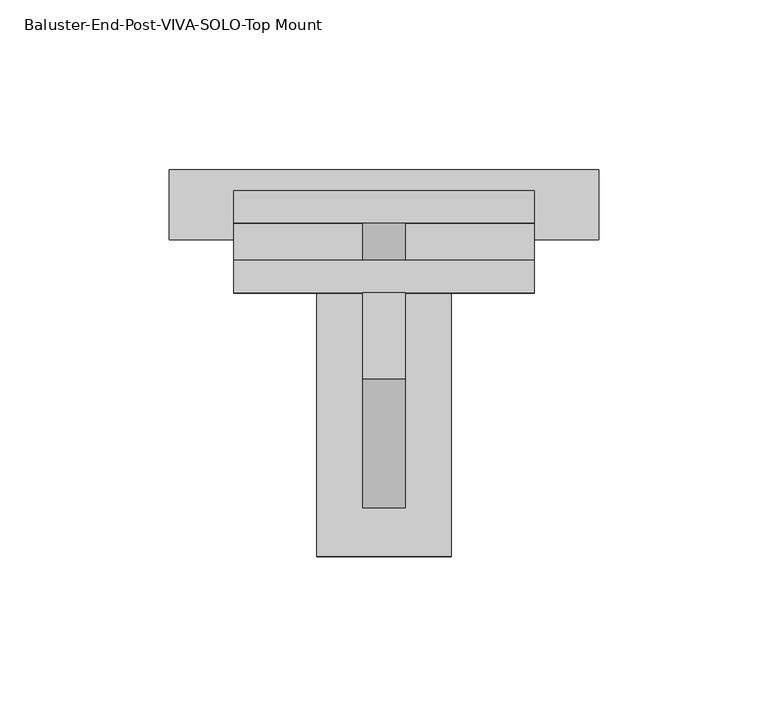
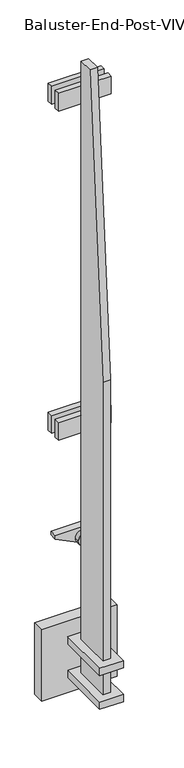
"""IFC4 building model written with IfcOpenShell, lengths in millimetres: proxy geometry, Baluster-End-Post-VIVA-SOLO-Top Mount : ANCHORED TO CONCRETE_FASCIA B1 MOUNT FOLD_STRAIGHT."""

from ifc_helpers import new_model, si_unit, point, frame, frame_2d, origin, place, context, project, spatial, polyline, circle_curve, trimmed, segment, composite_curve, outline, extrude, source, transform, mapped, element, save


def baluster_end_post_viva_solo_top_mount_5a94812b(model_context):
    return source(origin(), model_context, "Body", "SweptSolid", [
        extrude(outline(composite_curve([segment(trimmed(circle_curve(frame_2d((268.5208758, -152.4)), 6.35), [point((268.5208758, -146.05))], [point((268.5208758, -158.75))], False, "CARTESIAN"), True, "CONTINUOUS"), segment(trimmed(circle_curve(frame_2d((268.5208758, -152.4)), 6.35), [point((268.5208758, -158.75))], [point((268.5208758, -146.05))], False, "CARTESIAN"), True, "CONTINUOUS")], self_intersect=False)), frame((0.0, -63.209781, 0.0), z_axis=(0.0, 1.0, 0.0), x_axis=(0.0, 0.0, 1.0)), (0.0, 0.0, 1.0), 12.7),
        extrude(outline(composite_curve([segment(trimmed(circle_curve(frame_2d((854.7429765, -152.4)), 6.35), [point((854.7429765, -146.05))], [point((854.7429765, -158.75))], False, "CARTESIAN"), True, "CONTINUOUS"), segment(trimmed(circle_curve(frame_2d((854.7429765, -152.4)), 6.35), [point((854.7429765, -158.75))], [point((854.7429765, -146.05))], False, "CARTESIAN"), True, "CONTINUOUS")], self_intersect=False)), frame((0.0, -63.209781, 0.0), z_axis=(0.0, 1.0, 0.0), x_axis=(0.0, 0.0, 1.0)), (0.0, 0.0, 1.0), 12.7),
        extrude(outline(polyline([(-72.734781, 914.9493536), (-72.734781, -183.6006464), (-136.234781, -183.6006464), (-136.234781, 381.5493536), (-98.134781, 914.9493536), (-72.734781, 914.9493536)])), frame((-158.75, 0.0, 0.0), z_axis=(1.0, 0.0, 0.0), x_axis=(0.0, 1.0, 0.0)), (0.0, 0.0, 1.0), 12.7),
        extrude(outline(polyline([(-196.85, -42.5925389), (-107.95, -42.5925389), (-107.95, -52.1175389), (-196.85, -52.1175389), (-196.85, -42.5925389)])), frame((0.0, 0.0, 838.7824344), z_axis=(0.0, 0.0, 1.0), x_axis=(1.0, 0.0, 0.0)), (0.0, 0.0, 1.0), 31.75),
        extrude(outline(polyline([(-196.85, -42.5925389), (-107.95, -42.5925389), (-107.95, -52.1175389), (-196.85, -52.1175389), (-196.85, -42.5925389)])), frame((0.0, 0.0, 252.4484609), z_axis=(0.0, 0.0, 1.0), x_axis=(1.0, 0.0, 0.0)), (0.0, 0.0, 1.0), 31.75),
        extrude(outline(polyline([(-196.85, -63.209781), (-107.95, -63.209781), (-107.95, -72.734781), (-196.85, -72.734781), (-196.85, -63.209781)])), frame((0.0, 0.0, 838.7824344), z_axis=(0.0, 0.0, 1.0), x_axis=(1.0, 0.0, 0.0)), (0.0, 0.0, 1.0), 31.75),
        extrude(outline(polyline([(-196.85, -63.209781), (-107.95, -63.209781), (-107.95, -72.734781), (-196.85, -72.734781), (-196.85, -63.209781)])), frame((0.0, 0.0, 252.4484609), z_axis=(0.0, 0.0, 1.0), x_axis=(1.0, 0.0, 0.0)), (0.0, 0.0, 1.0), 31.75),
        extrude(outline(polyline([(70.3302675, -107.95), (76.6802675, -107.95), (76.6802675, -196.85), (70.3302675, -196.85), (48.4156188, -152.4), (70.3302675, -107.95)])), frame((0.0, -63.209781, 0.0), z_axis=(0.0, 1.0, 0.0), x_axis=(0.0, 0.0, 1.0)), (0.0, 0.0, 1.0), 12.7),
        extrude(outline(polyline([(-132.55625, -56.859781), (-132.55625, -150.522281), (-172.24375, -150.522281), (-172.24375, -56.859781), (-132.55625, -56.859781)])), frame((0.0, 0.0, -128.0381464), z_axis=(0.0, 0.0, 1.0), x_axis=(1.0, 0.0, 0.0)), (0.0, 0.0, 1.0), 12.7),
        extrude(outline(polyline([(-132.55625, -56.859781), (-132.55625, -150.522281), (-172.24375, -150.522281), (-172.24375, -56.859781), (-132.55625, -56.859781)])), frame((0.0, 0.0, -188.3631464), z_axis=(0.0, 0.0, 1.0), x_axis=(1.0, 0.0, 0.0)), (0.0, 0.0, 1.0), 12.7),
        extrude(outline(polyline([(-215.9, -36.222281), (-88.9, -36.222281), (-88.9, -56.859781), (-215.9, -56.859781), (-215.9, -36.222281)])), frame((0.0, 0.0, -215.3506464), z_axis=(0.0, 0.0, 1.0), x_axis=(1.0, 0.0, 0.0)), (0.0, 0.0, 1.0), 127.0),
        extrude(outline(composite_curve([segment(trimmed(circle_curve(frame_2d((60.8777263, -152.4)), 11.1125), [point((60.8777263, -141.2875))], [point((60.8777263, -163.5125))], False, "CARTESIAN"), True, "CONTINUOUS"), segment(trimmed(circle_curve(frame_2d((60.8777263, -152.4)), 11.1125), [point((60.8777263, -163.5125))], [point((60.8777263, -141.2875))], False, "CARTESIAN"), True, "CONTINUOUS")], self_intersect=False)), frame((0.0, -72.734781, 0.0), z_axis=(0.0, 1.0, 0.0), x_axis=(0.0, 0.0, 1.0)), (0.0, 0.0, 1.0), 25.4),
    ])


if __name__ == "__main__":
    model = new_model("IFC4")
    model_context = context("Model", 3, world=origin())
    ifc_project = project(units=[si_unit("LENGTHUNIT", "METRE", prefix="MILLI")], contexts=[model_context])
    site = spatial("IfcSite", under=ifc_project)
    building = spatial("IfcBuilding", under=site)
    placement = place(None, origin())
    baluster_end_post_viva_solo_top_mount_shape = baluster_end_post_viva_solo_top_mount_5a94812b(model_context)
    element("IfcBuildingElementProxy", 1, Name="Baluster-End-Post-VIVA-SOLO-Top Mount : ANCHORED TO CONCRETE_FASCIA B1 MOUNT FOLD_STRAIGHT", ObjectType="Baluster-End-Post-VIVA-SOLO-Top Mount : ANCHORED TO CONCRETE_FASCIA B1 MOUNT FOLD_STRAIGHT", at=placement, inside=building, context=model_context, shape_type="MappedRepresentation", body=[
        mapped(baluster_end_post_viva_solo_top_mount_shape, transform((0.0, 0.0, 0.0), x_axis=(1.0, 0.0, 0.0), y_axis=(0.0, 1.0, 0.0), z_axis=(0.0, 0.0, 1.0))),
    ])
    save(model, "model.ifc")
